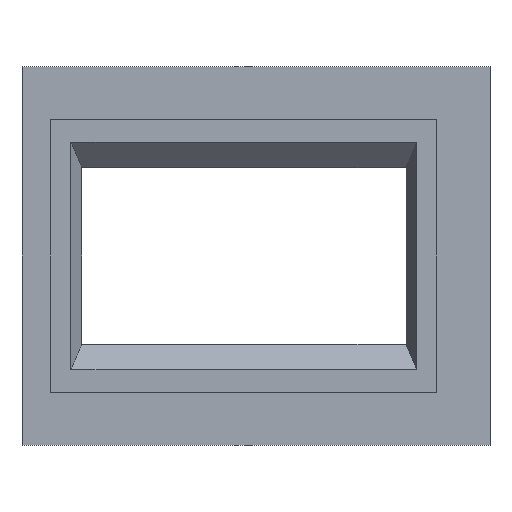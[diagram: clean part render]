
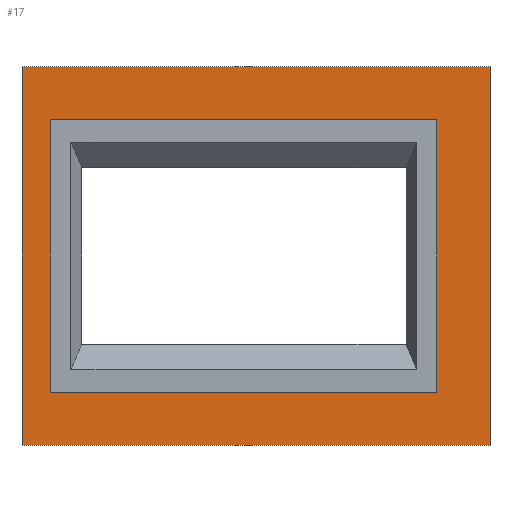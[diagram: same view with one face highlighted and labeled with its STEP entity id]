
A CAD part, left-side view. The second image highlights one B-rep face of the part: STEP entity #17.
In plain terms, the highlighted planar face has unit normal (-1, 0, 0).
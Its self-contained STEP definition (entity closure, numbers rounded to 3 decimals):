
#17 = ADVANCED_FACE('',(#18,#137),#32,.F.);
#18 = FACE_BOUND('',#19,.F.);
#19 = EDGE_LOOP('',(#20,#55,#83,#111));
#20 = ORIENTED_EDGE('',*,*,#21,.F.);
#21 = EDGE_CURVE('',#22,#24,#26,.T.);
#22 = VERTEX_POINT('',#23);
#23 = CARTESIAN_POINT('',(-71.705,15.25,8.14));
#24 = VERTEX_POINT('',#25);
#25 = CARTESIAN_POINT('',(-71.705,15.25,23.14));
#26 = SURFACE_CURVE('',#27,(#31,#43),.PCURVE_S1.);
#27 = LINE('',#28,#29);
#28 = CARTESIAN_POINT('',(-71.705,15.25,8.14));
#29 = VECTOR('',#30,1.);
#30 = DIRECTION('',(0.,0.,1.));
#31 = PCURVE('',#32,#37);
#32 = PLANE('',#33);
#33 = AXIS2_PLACEMENT_3D('',#34,#35,#36);
#34 = CARTESIAN_POINT('',(-71.705,15.25,8.14));
#35 = DIRECTION('',(1.,0.,0.));
#36 = DIRECTION('',(0.,0.,1.));
#37 = DEFINITIONAL_REPRESENTATION('',(#38),#42);
#38 = LINE('',#39,#40);
#39 = CARTESIAN_POINT('',(0.,0.));
#40 = VECTOR('',#41,1.);
#41 = DIRECTION('',(1.,0.));
#42 = ( GEOMETRIC_REPRESENTATION_CONTEXT(2) 
PARAMETRIC_REPRESENTATION_CONTEXT() REPRESENTATION_CONTEXT('2D SPACE',''
  ) );
#43 = PCURVE('',#44,#49);
#44 = PLANE('',#45);
#45 = AXIS2_PLACEMENT_3D('',#46,#47,#48);
#46 = CARTESIAN_POINT('',(-71.705,15.25,8.14));
#47 = DIRECTION('',(0.,1.,0.));
#48 = DIRECTION('',(0.,0.,1.));
#49 = DEFINITIONAL_REPRESENTATION('',(#50),#54);
#50 = LINE('',#51,#52);
#51 = CARTESIAN_POINT('',(0.,0.));
#52 = VECTOR('',#53,1.);
#53 = DIRECTION('',(1.,0.));
#54 = ( GEOMETRIC_REPRESENTATION_CONTEXT(2) 
PARAMETRIC_REPRESENTATION_CONTEXT() REPRESENTATION_CONTEXT('2D SPACE',''
  ) );
#55 = ORIENTED_EDGE('',*,*,#56,.T.);
#56 = EDGE_CURVE('',#22,#57,#59,.T.);
#57 = VERTEX_POINT('',#58);
#58 = CARTESIAN_POINT('',(-71.705,33.788,8.14));
#59 = SURFACE_CURVE('',#60,(#64,#71),.PCURVE_S1.);
#60 = LINE('',#61,#62);
#61 = CARTESIAN_POINT('',(-71.705,15.25,8.14));
#62 = VECTOR('',#63,1.);
#63 = DIRECTION('',(0.,1.,0.));
#64 = PCURVE('',#32,#65);
#65 = DEFINITIONAL_REPRESENTATION('',(#66),#70);
#66 = LINE('',#67,#68);
#67 = CARTESIAN_POINT('',(0.,0.));
#68 = VECTOR('',#69,1.);
#69 = DIRECTION('',(0.,-1.));
#70 = ( GEOMETRIC_REPRESENTATION_CONTEXT(2) 
PARAMETRIC_REPRESENTATION_CONTEXT() REPRESENTATION_CONTEXT('2D SPACE',''
  ) );
#71 = PCURVE('',#72,#77);
#72 = PLANE('',#73);
#73 = AXIS2_PLACEMENT_3D('',#74,#75,#76);
#74 = CARTESIAN_POINT('',(-71.705,15.25,8.14));
#75 = DIRECTION('',(0.,0.,1.));
#76 = DIRECTION('',(1.,0.,0.));
#77 = DEFINITIONAL_REPRESENTATION('',(#78),#82);
#78 = LINE('',#79,#80);
#79 = CARTESIAN_POINT('',(0.,0.));
#80 = VECTOR('',#81,1.);
#81 = DIRECTION('',(0.,1.));
#82 = ( GEOMETRIC_REPRESENTATION_CONTEXT(2) 
PARAMETRIC_REPRESENTATION_CONTEXT() REPRESENTATION_CONTEXT('2D SPACE',''
  ) );
#83 = ORIENTED_EDGE('',*,*,#84,.T.);
#84 = EDGE_CURVE('',#57,#85,#87,.T.);
#85 = VERTEX_POINT('',#86);
#86 = CARTESIAN_POINT('',(-71.705,33.788,23.14));
#87 = SURFACE_CURVE('',#88,(#92,#99),.PCURVE_S1.);
#88 = LINE('',#89,#90);
#89 = CARTESIAN_POINT('',(-71.705,33.788,8.14));
#90 = VECTOR('',#91,1.);
#91 = DIRECTION('',(0.,0.,1.));
#92 = PCURVE('',#32,#93);
#93 = DEFINITIONAL_REPRESENTATION('',(#94),#98);
#94 = LINE('',#95,#96);
#95 = CARTESIAN_POINT('',(0.,-18.538));
#96 = VECTOR('',#97,1.);
#97 = DIRECTION('',(1.,0.));
#98 = ( GEOMETRIC_REPRESENTATION_CONTEXT(2) 
PARAMETRIC_REPRESENTATION_CONTEXT() REPRESENTATION_CONTEXT('2D SPACE',''
  ) );
#99 = PCURVE('',#100,#105);
#100 = PLANE('',#101);
#101 = AXIS2_PLACEMENT_3D('',#102,#103,#104);
#102 = CARTESIAN_POINT('',(-71.705,33.788,8.14));
#103 = DIRECTION('',(0.,1.,0.));
#104 = DIRECTION('',(0.,0.,1.));
#105 = DEFINITIONAL_REPRESENTATION('',(#106),#110);
#106 = LINE('',#107,#108);
#107 = CARTESIAN_POINT('',(0.,0.));
#108 = VECTOR('',#109,1.);
#109 = DIRECTION('',(1.,0.));
#110 = ( GEOMETRIC_REPRESENTATION_CONTEXT(2) 
PARAMETRIC_REPRESENTATION_CONTEXT() REPRESENTATION_CONTEXT('2D SPACE',''
  ) );
#111 = ORIENTED_EDGE('',*,*,#112,.F.);
#112 = EDGE_CURVE('',#24,#85,#113,.T.);
#113 = SURFACE_CURVE('',#114,(#118,#125),.PCURVE_S1.);
#114 = LINE('',#115,#116);
#115 = CARTESIAN_POINT('',(-71.705,15.25,23.14));
#116 = VECTOR('',#117,1.);
#117 = DIRECTION('',(0.,1.,0.));
#118 = PCURVE('',#32,#119);
#119 = DEFINITIONAL_REPRESENTATION('',(#120),#124);
#120 = LINE('',#121,#122);
#121 = CARTESIAN_POINT('',(15.,0.));
#122 = VECTOR('',#123,1.);
#123 = DIRECTION('',(0.,-1.));
#124 = ( GEOMETRIC_REPRESENTATION_CONTEXT(2) 
PARAMETRIC_REPRESENTATION_CONTEXT() REPRESENTATION_CONTEXT('2D SPACE',''
  ) );
#125 = PCURVE('',#126,#131);
#126 = PLANE('',#127);
#127 = AXIS2_PLACEMENT_3D('',#128,#129,#130);
#128 = CARTESIAN_POINT('',(-71.705,15.25,23.14));
#129 = DIRECTION('',(0.,0.,1.));
#130 = DIRECTION('',(1.,0.,0.));
#131 = DEFINITIONAL_REPRESENTATION('',(#132),#136);
#132 = LINE('',#133,#134);
#133 = CARTESIAN_POINT('',(0.,0.));
#134 = VECTOR('',#135,1.);
#135 = DIRECTION('',(0.,1.));
#136 = ( GEOMETRIC_REPRESENTATION_CONTEXT(2) 
PARAMETRIC_REPRESENTATION_CONTEXT() REPRESENTATION_CONTEXT('2D SPACE',''
  ) );
#137 = FACE_BOUND('',#138,.F.);
#138 = EDGE_LOOP('',(#139,#169,#197,#225));
#139 = ORIENTED_EDGE('',*,*,#140,.T.);
#140 = EDGE_CURVE('',#141,#143,#145,.T.);
#141 = VERTEX_POINT('',#142);
#142 = CARTESIAN_POINT('',(-71.705,17.35,10.24));
#143 = VERTEX_POINT('',#144);
#144 = CARTESIAN_POINT('',(-71.705,17.35,21.04));
#145 = SURFACE_CURVE('',#146,(#150,#157),.PCURVE_S1.);
#146 = LINE('',#147,#148);
#147 = CARTESIAN_POINT('',(-71.705,17.35,10.24));
#148 = VECTOR('',#149,1.);
#149 = DIRECTION('',(0.,0.,1.));
#150 = PCURVE('',#32,#151);
#151 = DEFINITIONAL_REPRESENTATION('',(#152),#156);
#152 = LINE('',#153,#154);
#153 = CARTESIAN_POINT('',(2.1,-2.1));
#154 = VECTOR('',#155,1.);
#155 = DIRECTION('',(1.,0.));
#156 = ( GEOMETRIC_REPRESENTATION_CONTEXT(2) 
PARAMETRIC_REPRESENTATION_CONTEXT() REPRESENTATION_CONTEXT('2D SPACE',''
  ) );
#157 = PCURVE('',#158,#163);
#158 = PLANE('',#159);
#159 = AXIS2_PLACEMENT_3D('',#160,#161,#162);
#160 = CARTESIAN_POINT('',(-74.7,17.35,10.24));
#161 = DIRECTION('',(0.,1.,0.));
#162 = DIRECTION('',(0.,0.,1.));
#163 = DEFINITIONAL_REPRESENTATION('',(#164),#168);
#164 = LINE('',#165,#166);
#165 = CARTESIAN_POINT('',(0.,2.995));
#166 = VECTOR('',#167,1.);
#167 = DIRECTION('',(1.,0.));
#168 = ( GEOMETRIC_REPRESENTATION_CONTEXT(2) 
PARAMETRIC_REPRESENTATION_CONTEXT() REPRESENTATION_CONTEXT('2D SPACE',''
  ) );
#169 = ORIENTED_EDGE('',*,*,#170,.T.);
#170 = EDGE_CURVE('',#143,#171,#173,.T.);
#171 = VERTEX_POINT('',#172);
#172 = CARTESIAN_POINT('',(-71.705,32.65,21.04));
#173 = SURFACE_CURVE('',#174,(#178,#185),.PCURVE_S1.);
#174 = LINE('',#175,#176);
#175 = CARTESIAN_POINT('',(-71.705,17.35,21.04));
#176 = VECTOR('',#177,1.);
#177 = DIRECTION('',(0.,1.,0.));
#178 = PCURVE('',#32,#179);
#179 = DEFINITIONAL_REPRESENTATION('',(#180),#184);
#180 = LINE('',#181,#182);
#181 = CARTESIAN_POINT('',(12.9,-2.1));
#182 = VECTOR('',#183,1.);
#183 = DIRECTION('',(0.,-1.));
#184 = ( GEOMETRIC_REPRESENTATION_CONTEXT(2) 
PARAMETRIC_REPRESENTATION_CONTEXT() REPRESENTATION_CONTEXT('2D SPACE',''
  ) );
#185 = PCURVE('',#186,#191);
#186 = PLANE('',#187);
#187 = AXIS2_PLACEMENT_3D('',#188,#189,#190);
#188 = CARTESIAN_POINT('',(-74.7,17.35,21.04));
#189 = DIRECTION('',(0.,0.,1.));
#190 = DIRECTION('',(1.,0.,0.));
#191 = DEFINITIONAL_REPRESENTATION('',(#192),#196);
#192 = LINE('',#193,#194);
#193 = CARTESIAN_POINT('',(2.995,0.));
#194 = VECTOR('',#195,1.);
#195 = DIRECTION('',(0.,1.));
#196 = ( GEOMETRIC_REPRESENTATION_CONTEXT(2) 
PARAMETRIC_REPRESENTATION_CONTEXT() REPRESENTATION_CONTEXT('2D SPACE',''
  ) );
#197 = ORIENTED_EDGE('',*,*,#198,.F.);
#198 = EDGE_CURVE('',#199,#171,#201,.T.);
#199 = VERTEX_POINT('',#200);
#200 = CARTESIAN_POINT('',(-71.705,32.65,10.24));
#201 = SURFACE_CURVE('',#202,(#206,#213),.PCURVE_S1.);
#202 = LINE('',#203,#204);
#203 = CARTESIAN_POINT('',(-71.705,32.65,10.24));
#204 = VECTOR('',#205,1.);
#205 = DIRECTION('',(0.,0.,1.));
#206 = PCURVE('',#32,#207);
#207 = DEFINITIONAL_REPRESENTATION('',(#208),#212);
#208 = LINE('',#209,#210);
#209 = CARTESIAN_POINT('',(2.1,-17.4));
#210 = VECTOR('',#211,1.);
#211 = DIRECTION('',(1.,0.));
#212 = ( GEOMETRIC_REPRESENTATION_CONTEXT(2) 
PARAMETRIC_REPRESENTATION_CONTEXT() REPRESENTATION_CONTEXT('2D SPACE',''
  ) );
#213 = PCURVE('',#214,#219);
#214 = PLANE('',#215);
#215 = AXIS2_PLACEMENT_3D('',#216,#217,#218);
#216 = CARTESIAN_POINT('',(-74.7,32.65,10.24));
#217 = DIRECTION('',(0.,1.,0.));
#218 = DIRECTION('',(0.,0.,1.));
#219 = DEFINITIONAL_REPRESENTATION('',(#220),#224);
#220 = LINE('',#221,#222);
#221 = CARTESIAN_POINT('',(0.,2.995));
#222 = VECTOR('',#223,1.);
#223 = DIRECTION('',(1.,0.));
#224 = ( GEOMETRIC_REPRESENTATION_CONTEXT(2) 
PARAMETRIC_REPRESENTATION_CONTEXT() REPRESENTATION_CONTEXT('2D SPACE',''
  ) );
#225 = ORIENTED_EDGE('',*,*,#226,.F.);
#226 = EDGE_CURVE('',#141,#199,#227,.T.);
#227 = SURFACE_CURVE('',#228,(#232,#239),.PCURVE_S1.);
#228 = LINE('',#229,#230);
#229 = CARTESIAN_POINT('',(-71.705,17.35,10.24));
#230 = VECTOR('',#231,1.);
#231 = DIRECTION('',(0.,1.,0.));
#232 = PCURVE('',#32,#233);
#233 = DEFINITIONAL_REPRESENTATION('',(#234),#238);
#234 = LINE('',#235,#236);
#235 = CARTESIAN_POINT('',(2.1,-2.1));
#236 = VECTOR('',#237,1.);
#237 = DIRECTION('',(0.,-1.));
#238 = ( GEOMETRIC_REPRESENTATION_CONTEXT(2) 
PARAMETRIC_REPRESENTATION_CONTEXT() REPRESENTATION_CONTEXT('2D SPACE',''
  ) );
#239 = PCURVE('',#240,#245);
#240 = PLANE('',#241);
#241 = AXIS2_PLACEMENT_3D('',#242,#243,#244);
#242 = CARTESIAN_POINT('',(-74.7,17.35,10.24));
#243 = DIRECTION('',(0.,0.,1.));
#244 = DIRECTION('',(1.,0.,0.));
#245 = DEFINITIONAL_REPRESENTATION('',(#246),#250);
#246 = LINE('',#247,#248);
#247 = CARTESIAN_POINT('',(2.995,0.));
#248 = VECTOR('',#249,1.);
#249 = DIRECTION('',(0.,1.));
#250 = ( GEOMETRIC_REPRESENTATION_CONTEXT(2) 
PARAMETRIC_REPRESENTATION_CONTEXT() REPRESENTATION_CONTEXT('2D SPACE',''
  ) );
